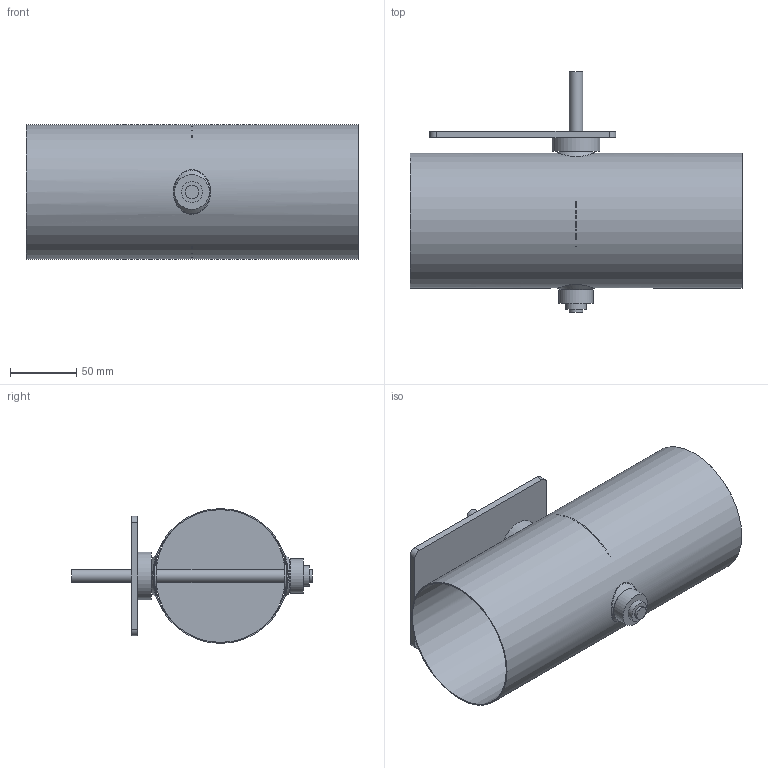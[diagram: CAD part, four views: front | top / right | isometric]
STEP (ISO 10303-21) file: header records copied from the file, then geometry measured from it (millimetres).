
FILE_DESCRIPTION(/* description */ (''),/* implementation_level */ '2;1');
FILE_NAME(/* name */ 'AA120-80B__100_L250_Belimo_Typ_NM.stp',/* time_stamp */ '2017-12-05T13:24:44+01:00',/* author */ (''),/* organization */ (''),/* preprocessor_version */ 'ST-DEVELOPER v11',/* originating_system */ 'SIEMENS UGS NX 6.0',/* authorisation */ '');
FILE_SCHEMA (('CONFIG_CONTROL_DESIGN'));
Length unit declared in the file: millimetre
Products named in the file (1): gars1E3Bhigs
Bounding box: 250 x 181 x 101.6 mm (x, y, z)
Volume: 164931.7 mm3; surface area: 217286.4 mm2
Topology: 8 solids, 8 shells, 65 faces, 139 edges, 96 vertices
Faces by surface type: plane 28, cylinder 25, cone 4, bspline 4, torus 4
Full cylindrical faces by diameter (mm): 4.1 x3, 10 x3, 15 x3, 15.85 x2, 16 x2, 24 x2, 26 x1, 36 x1, 100 x1, 101.6 x1
Entity records: 2228 total; most frequent: CARTESIAN_POINT 904, DIRECTION 264, ORIENTED_EDGE 180, EDGE_LOOP 124, AXIS2_PLACEMENT_3D 120, FACE_BOUND 110, EDGE_CURVE 90, VERTEX_POINT 78
